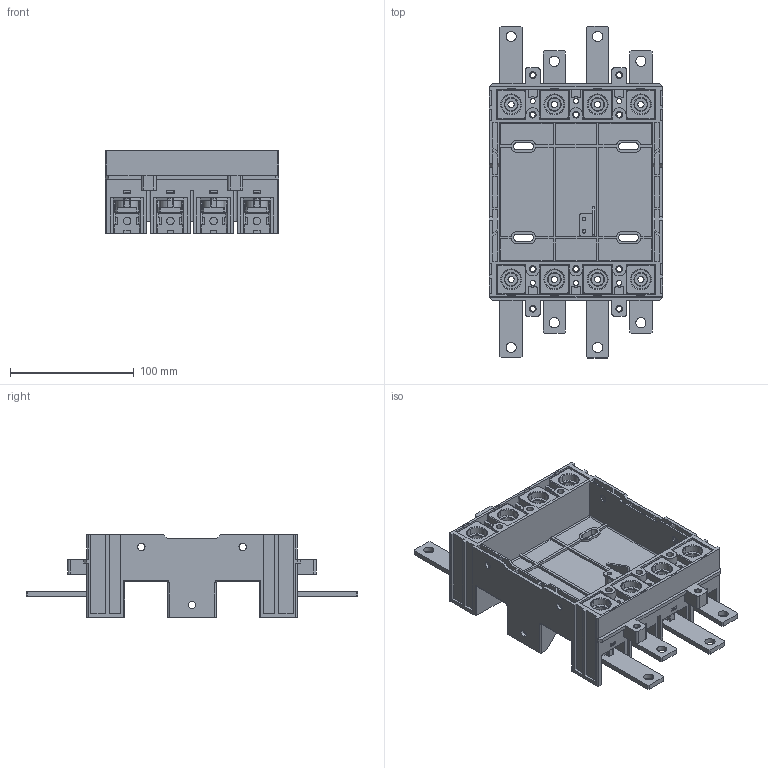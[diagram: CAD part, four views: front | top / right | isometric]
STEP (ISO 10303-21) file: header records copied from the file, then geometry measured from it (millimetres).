
FILE_DESCRIPTION (( 'STEP AP214' ), '1' );
FILE_NAME ('Âòû÷íîå îñíîâàíèå TEM7E-250-4p.STEP', '2025-11-26T12:31:33', ( '' ), ( '' ), 'SwSTEP 2.0', 'SolidWorks 2024', '' );
FILE_SCHEMA (( 'AUTOMOTIVE_DESIGN' ));
Length unit declared in the file: millimetre
Products named in the file (16): 15_1__100_1.stp; Втычное основание TEM7E-250-4p; _30_10001_1.stp; WL5_024_204_1_ASM_1.stp; 0000274877_ASM_1.stp; 5564M1526001-54838_1_ASM_1.stp; 11-8561M0412002_1_1.stp; Втычное основание TEM7E-250-4p.stp; _X2_96F64EF6_X0_1_1_1.stp; 15_3__100_1.stp; 15_2__100_1.stp; WL8_300_065_1_2_1.stp; WL8_585_007_1_1.stp; MZ2-250-TEM7_1_2_ASM_1.stp; 15_4__100_1.stp; WL8_585_008_1_1.stp
Assembly tree (35 placements, depth 6):
  Втычное основание TEM7E-250-4p
    Втычное основание TEM7E-250-4p.stp
      0000274877_ASM_1.stp
        MZ2-250-TEM7_1_2_ASM_1.stp
          5564M1526001-54838_1_ASM_1.stp  x8
            11-8561M0412002_1_1.stp
          WL5_024_204_1_ASM_1.stp
            15_2__100_1.stp
            15_3__100_1.stp
            15_1__100_1.stp
            15_4__100_1.stp
            _30_10001_1.stp
          WL8_300_065_1_2_1.stp  x8
          WL8_585_007_1_1.stp  x4
          WL8_585_008_1_1.stp  x4
      _X2_96F64EF6_X0_1_1_1.stp
Bounding box: 140 x 268.5 x 67 mm (x, y, z)
Volume: 392138.7 mm3; surface area: 314719.7 mm2
Topology: 30 solids, 30 shells, 2494 faces, 6875 edges, 4447 vertices
Faces by surface type: plane 1494, cylinder 796, torus 116, cone 56, sphere 32
Entity records: 50758 total; most frequent: CARTESIAN_POINT 9718, ORIENTED_EDGE 8578, DIRECTION 8388, EDGE_CURVE 4289, VECTOR 3192, LINE 3192, VERTEX_POINT 2798, AXIS2_PLACEMENT_3D 2598
